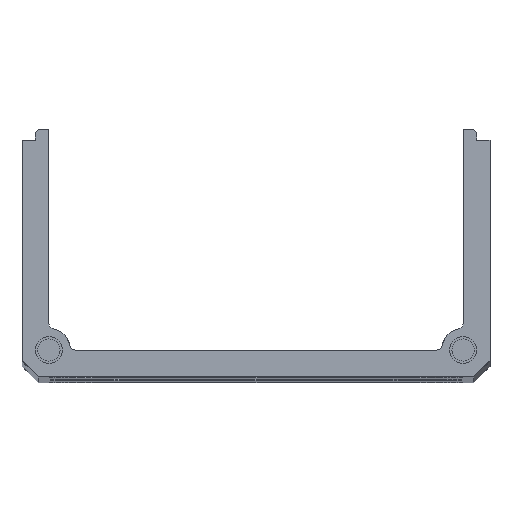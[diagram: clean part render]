
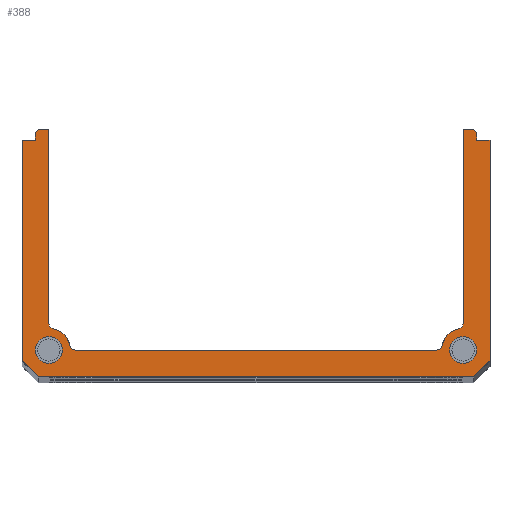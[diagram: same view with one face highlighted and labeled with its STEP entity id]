
A CAD part, top view. The second image highlights one B-rep face of the part: STEP entity #388.
In plain terms, the highlighted planar face has unit normal (0, 0, 1).
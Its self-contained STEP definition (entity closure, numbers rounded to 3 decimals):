
#220=FACE_BOUND('',#1286,.F.);
#221=FACE_BOUND('',#1287,.F.);
#270=PLANE('',#8568);
#388=ADVANCED_FACE('',(#220,#221,#837),#270,.T.);
#837=FACE_OUTER_BOUND('',#1288,.F.);
#1286=EDGE_LOOP('',(#1895,#1896));
#1287=EDGE_LOOP('',(#1897,#1898));
#1288=EDGE_LOOP('',(#1899,#1900,#1901,#1902,#1903,#1904,#1905,#1906,#1907,
#1908,#1909,#1910,#1911,#1912,#1913,#1914,#1915,#1916,#1917,#1918,#1919,
#1920));
#1895=ORIENTED_EDGE('',*,*,#6200,.T.);
#1896=ORIENTED_EDGE('',*,*,#6199,.T.);
#1897=ORIENTED_EDGE('',*,*,#6219,.T.);
#1898=ORIENTED_EDGE('',*,*,#6220,.T.);
#1899=ORIENTED_EDGE('',*,*,#6206,.T.);
#1900=ORIENTED_EDGE('',*,*,#6218,.T.);
#1901=ORIENTED_EDGE('',*,*,#6203,.T.);
#1902=ORIENTED_EDGE('',*,*,#5994,.F.);
#1903=ORIENTED_EDGE('',*,*,#6202,.T.);
#1904=ORIENTED_EDGE('',*,*,#6201,.T.);
#1905=ORIENTED_EDGE('',*,*,#6205,.T.);
#1906=ORIENTED_EDGE('',*,*,#6116,.F.);
#1907=ORIENTED_EDGE('',*,*,#6204,.T.);
#1908=ORIENTED_EDGE('',*,*,#6217,.T.);
#1909=ORIENTED_EDGE('',*,*,#6216,.T.);
#1910=ORIENTED_EDGE('',*,*,#6215,.T.);
#1911=ORIENTED_EDGE('',*,*,#6214,.T.);
#1912=ORIENTED_EDGE('',*,*,#6213,.T.);
#1913=ORIENTED_EDGE('',*,*,#6212,.T.);
#1914=ORIENTED_EDGE('',*,*,#6115,.T.);
#1915=ORIENTED_EDGE('',*,*,#6211,.T.);
#1916=ORIENTED_EDGE('',*,*,#5993,.T.);
#1917=ORIENTED_EDGE('',*,*,#6210,.T.);
#1918=ORIENTED_EDGE('',*,*,#6209,.T.);
#1919=ORIENTED_EDGE('',*,*,#6208,.T.);
#1920=ORIENTED_EDGE('',*,*,#6207,.T.);
#4488=CIRCLE('',#8239,2.);
#4515=CIRCLE('',#8266,2.);
#4558=CIRCLE('',#8309,1.25);
#4559=CIRCLE('',#8310,1.25);
#4560=CIRCLE('',#8311,0.5);
#4561=CIRCLE('',#8312,0.5);
#4562=CIRCLE('',#8313,0.5);
#4563=CIRCLE('',#8314,0.5);
#4564=CIRCLE('',#8315,1.25);
#4565=CIRCLE('',#8316,1.25);
#4969=LINE('',#12200,#5476);
#5018=LINE('',#12716,#5525);
#5034=LINE('',#12986,#5541);
#5035=LINE('',#12991,#5542);
#5036=LINE('',#12992,#5543);
#5037=LINE('',#12993,#5544);
#5038=LINE('',#12994,#5545);
#5039=LINE('',#12995,#5546);
#5040=LINE('',#12996,#5547);
#5041=LINE('',#12997,#5548);
#5042=LINE('',#12998,#5549);
#5043=LINE('',#12999,#5550);
#5044=LINE('',#13000,#5551);
#5045=LINE('',#13001,#5552);
#5046=LINE('',#13002,#5553);
#5047=LINE('',#13003,#5554);
#5476=VECTOR('',#9192,2.121);
#5525=VECTOR('',#9295,2.121);
#5541=VECTOR('',#9401,33.601);
#5542=VECTOR('',#9410,0.95);
#5543=VECTOR('',#9411,0.424);
#5544=VECTOR('',#9412,0.7);
#5545=VECTOR('',#9413,1.25);
#5546=VECTOR('',#9414,20.5);
#5547=VECTOR('',#9415,40.5);
#5548=VECTOR('',#9416,20.5);
#5549=VECTOR('',#9417,1.25);
#5550=VECTOR('',#9418,0.7);
#5551=VECTOR('',#9419,0.424);
#5552=VECTOR('',#9420,0.95);
#5553=VECTOR('',#9421,18.051);
#5554=VECTOR('',#9422,18.051);
#5993=EDGE_CURVE('',#7955,#7954,#4969,.T.);
#5994=EDGE_CURVE('',#7953,#7952,#4488,.T.);
#6115=EDGE_CURVE('',#7842,#7843,#5018,.T.);
#6116=EDGE_CURVE('',#7850,#7848,#4515,.T.);
#6199=EDGE_CURVE('',#7779,#7778,#4558,.T.);
#6200=EDGE_CURVE('',#7778,#7779,#4559,.T.);
#6201=EDGE_CURVE('',#7777,#7776,#5034,.T.);
#6202=EDGE_CURVE('',#7953,#7777,#4560,.T.);
#6203=EDGE_CURVE('',#7775,#7952,#4561,.T.);
#6204=EDGE_CURVE('',#7850,#7774,#4562,.T.);
#6205=EDGE_CURVE('',#7776,#7848,#4563,.T.);
#6206=EDGE_CURVE('',#7773,#7772,#5035,.T.);
#6207=EDGE_CURVE('',#7771,#7773,#5036,.T.);
#6208=EDGE_CURVE('',#7770,#7771,#5037,.T.);
#6209=EDGE_CURVE('',#7769,#7770,#5038,.T.);
#6210=EDGE_CURVE('',#7954,#7769,#5039,.T.);
#6211=EDGE_CURVE('',#7843,#7955,#5040,.T.);
#6212=EDGE_CURVE('',#7768,#7842,#5041,.T.);
#6213=EDGE_CURVE('',#7767,#7768,#5042,.T.);
#6214=EDGE_CURVE('',#7766,#7767,#5043,.T.);
#6215=EDGE_CURVE('',#7765,#7766,#5044,.T.);
#6216=EDGE_CURVE('',#7764,#7765,#5045,.T.);
#6217=EDGE_CURVE('',#7774,#7764,#5046,.T.);
#6218=EDGE_CURVE('',#7772,#7775,#5047,.T.);
#6219=EDGE_CURVE('',#7763,#7762,#4564,.T.);
#6220=EDGE_CURVE('',#7762,#7763,#4565,.T.);
#7762=VERTEX_POINT('',#11889);
#7763=VERTEX_POINT('',#11890);
#7764=VERTEX_POINT('',#11891);
#7765=VERTEX_POINT('',#11892);
#7766=VERTEX_POINT('',#11893);
#7767=VERTEX_POINT('',#11894);
#7768=VERTEX_POINT('',#11895);
#7769=VERTEX_POINT('',#11896);
#7770=VERTEX_POINT('',#11897);
#7771=VERTEX_POINT('',#11898);
#7772=VERTEX_POINT('',#11899);
#7773=VERTEX_POINT('',#11900);
#7774=VERTEX_POINT('',#11901);
#7775=VERTEX_POINT('',#11902);
#7776=VERTEX_POINT('',#11903);
#7777=VERTEX_POINT('',#11904);
#7778=VERTEX_POINT('',#11905);
#7779=VERTEX_POINT('',#11906);
#7842=VERTEX_POINT('',#11969);
#7843=VERTEX_POINT('',#11970);
#7848=VERTEX_POINT('',#11975);
#7850=VERTEX_POINT('',#11977);
#7952=VERTEX_POINT('',#12079);
#7953=VERTEX_POINT('',#12080);
#7954=VERTEX_POINT('',#12081);
#7955=VERTEX_POINT('',#12082);
#8239=AXIS2_PLACEMENT_3D('',#12201,#9193,#9194);
#8266=AXIS2_PLACEMENT_3D('',#12717,#9296,#9297);
#8309=AXIS2_PLACEMENT_3D('',#12984,#9397,#9398);
#8310=AXIS2_PLACEMENT_3D('',#12985,#9399,#9400);
#8311=AXIS2_PLACEMENT_3D('',#12987,#9402,#9403);
#8312=AXIS2_PLACEMENT_3D('',#12988,#9404,#9405);
#8313=AXIS2_PLACEMENT_3D('',#12989,#9406,#9407);
#8314=AXIS2_PLACEMENT_3D('',#12990,#9408,#9409);
#8315=AXIS2_PLACEMENT_3D('',#13004,#9423,#9424);
#8316=AXIS2_PLACEMENT_3D('',#13005,#9425,#9426);
#8568=AXIS2_PLACEMENT_3D('',#14051,#10195,#10196);
#9192=DIRECTION('',(-0.707,0.707,0.));
#9193=DIRECTION('',(0.,0.,1.));
#9194=DIRECTION('',(0.98,0.2,0.));
#9295=DIRECTION('',(-0.707,-0.707,0.));
#9296=DIRECTION('',(0.,0.,1.));
#9297=DIRECTION('',(-0.2,0.98,0.));
#9397=DIRECTION('',(0.,0.,1.));
#9398=DIRECTION('',(1.,0.,0.));
#9399=DIRECTION('',(0.,0.,1.));
#9400=DIRECTION('',(-1.,0.,0.));
#9401=DIRECTION('',(1.,0.,0.));
#9402=DIRECTION('',(0.,0.,1.));
#9403=DIRECTION('',(-0.98,-0.2,0.));
#9404=DIRECTION('',(0.,0.,1.));
#9405=DIRECTION('',(-1.,0.,0.));
#9406=DIRECTION('',(0.,0.,1.));
#9407=DIRECTION('',(0.2,-0.98,0.));
#9408=DIRECTION('',(0.,0.,1.));
#9409=DIRECTION('',(0.,-1.,0.));
#9410=DIRECTION('',(1.,0.,0.));
#9411=DIRECTION('',(0.707,0.707,0.));
#9412=DIRECTION('',(0.,1.,0.));
#9413=DIRECTION('',(1.,0.,0.));
#9414=DIRECTION('',(0.,1.,0.));
#9415=DIRECTION('',(-1.,0.,0.));
#9416=DIRECTION('',(0.,-1.,0.));
#9417=DIRECTION('',(1.,0.,0.));
#9418=DIRECTION('',(0.,-1.,0.));
#9419=DIRECTION('',(0.707,-0.707,0.));
#9420=DIRECTION('',(1.,0.,0.));
#9421=DIRECTION('',(0.,1.,0.));
#9422=DIRECTION('',(0.,-1.,0.));
#9423=DIRECTION('',(0.,0.,1.));
#9424=DIRECTION('',(-1.,0.,0.));
#9425=DIRECTION('',(0.,0.,1.));
#9426=DIRECTION('',(1.,0.,0.));
#10195=DIRECTION('',(0.,0.,1.));
#10196=DIRECTION('',(1.,0.,0.));
#11889=CARTESIAN_POINT('',(-18.,-217.75,265.83));
#11890=CARTESIAN_POINT('',(-20.5,-217.75,265.83));
#11891=CARTESIAN_POINT('',(19.25,-197.25,265.83));
#11892=CARTESIAN_POINT('',(20.2,-197.25,265.83));
#11893=CARTESIAN_POINT('',(20.5,-197.55,265.83));
#11894=CARTESIAN_POINT('',(20.5,-198.25,265.83));
#11895=CARTESIAN_POINT('',(21.75,-198.25,265.83));
#11896=CARTESIAN_POINT('',(-21.75,-198.25,265.83));
#11897=CARTESIAN_POINT('',(-20.5,-198.25,265.83));
#11898=CARTESIAN_POINT('',(-20.5,-197.55,265.83));
#11899=CARTESIAN_POINT('',(-19.25,-197.25,265.83));
#11900=CARTESIAN_POINT('',(-20.2,-197.25,265.83));
#11901=CARTESIAN_POINT('',(19.25,-215.3,265.83));
#11902=CARTESIAN_POINT('',(-19.25,-215.3,265.83));
#11903=CARTESIAN_POINT('',(16.801,-217.75,265.83));
#11904=CARTESIAN_POINT('',(-16.801,-217.75,265.83));
#11905=CARTESIAN_POINT('',(18.,-217.75,265.83));
#11906=CARTESIAN_POINT('',(20.5,-217.75,265.83));
#11969=CARTESIAN_POINT('',(21.75,-218.75,265.83));
#11970=CARTESIAN_POINT('',(20.25,-220.25,265.83));
#11975=CARTESIAN_POINT('',(17.29,-217.35,265.83));
#11977=CARTESIAN_POINT('',(18.85,-215.79,265.83));
#12079=CARTESIAN_POINT('',(-18.85,-215.79,265.83));
#12080=CARTESIAN_POINT('',(-17.29,-217.35,265.83));
#12081=CARTESIAN_POINT('',(-21.75,-218.75,265.83));
#12082=CARTESIAN_POINT('',(-20.25,-220.25,265.83));
#12200=CARTESIAN_POINT('',(-20.25,-220.25,265.83));
#12201=CARTESIAN_POINT('',(-19.25,-217.75,265.83));
#12716=CARTESIAN_POINT('',(21.75,-218.75,265.83));
#12717=CARTESIAN_POINT('',(19.25,-217.75,265.83));
#12984=CARTESIAN_POINT('',(19.25,-217.75,265.83));
#12985=CARTESIAN_POINT('',(19.25,-217.75,265.83));
#12986=CARTESIAN_POINT('',(-16.801,-217.75,265.83));
#12987=CARTESIAN_POINT('',(-16.801,-217.25,265.83));
#12988=CARTESIAN_POINT('',(-18.75,-215.3,265.83));
#12989=CARTESIAN_POINT('',(18.75,-215.3,265.83));
#12990=CARTESIAN_POINT('',(16.801,-217.25,265.83));
#12991=CARTESIAN_POINT('',(-20.2,-197.25,265.83));
#12992=CARTESIAN_POINT('',(-20.5,-197.55,265.83));
#12993=CARTESIAN_POINT('',(-20.5,-198.25,265.83));
#12994=CARTESIAN_POINT('',(-21.75,-198.25,265.83));
#12995=CARTESIAN_POINT('',(-21.75,-218.75,265.83));
#12996=CARTESIAN_POINT('',(20.25,-220.25,265.83));
#12997=CARTESIAN_POINT('',(21.75,-198.25,265.83));
#12998=CARTESIAN_POINT('',(20.5,-198.25,265.83));
#12999=CARTESIAN_POINT('',(20.5,-197.55,265.83));
#13000=CARTESIAN_POINT('',(20.2,-197.25,265.83));
#13001=CARTESIAN_POINT('',(19.25,-197.25,265.83));
#13002=CARTESIAN_POINT('',(19.25,-215.3,265.83));
#13003=CARTESIAN_POINT('',(-19.25,-197.25,265.83));
#13004=CARTESIAN_POINT('',(-19.25,-217.75,265.83));
#13005=CARTESIAN_POINT('',(-19.25,-217.75,265.83));
#14051=CARTESIAN_POINT('',(-22.185,-220.685,265.83));
